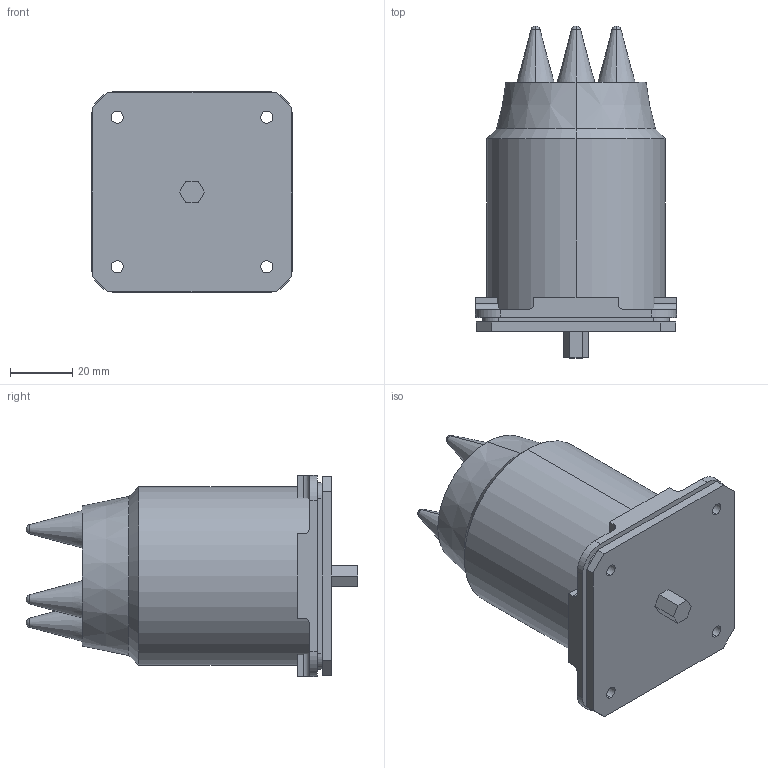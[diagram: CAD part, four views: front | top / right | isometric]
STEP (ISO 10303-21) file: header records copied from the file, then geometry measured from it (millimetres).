
FILE_DESCRIPTION (( 'STEP AP203' ), '1' );
FILE_NAME ('N20 E6219.STEP', '2014-03-10T13:22:04', ( '' ), ( '' ), 'SwSTEP 2.0', 'SolidWorks 2014', '' );
FILE_SCHEMA (( 'CONFIG_CONTROL_DESIGN' ));
Length unit declared in the file: millimetre
Products named in the file (7): Rastkammer_N20; CP6216; 5617; N20 E6219; CP5332_7 CP5332-1; 8068_3; 8068_4
Assembly tree (6 placements, depth 2):
  N20 E6219
    8068_3
    8068_4
    5617
    Rastkammer_N20
    CP5332_7 CP5332-1
    CP6216
Bounding box: 64.5 x 106.5 x 64.5 mm (x, y, z)
Volume: 99379.6 mm3; surface area: 74528.2 mm2
Topology: 6 solids, 6 shells, 637 faces, 1788 edges, 1177 vertices
Faces by surface type: plane 344, cylinder 227, cone 24, sphere 21, torus 17, bspline 4
Entity records: 21977 total; most frequent: CARTESIAN_POINT 4262, DIRECTION 3599, ORIENTED_EDGE 3576, EDGE_CURVE 1788, AXIS2_PLACEMENT_3D 1211, VECTOR 1177, LINE 1177, VERTEX_POINT 1177
